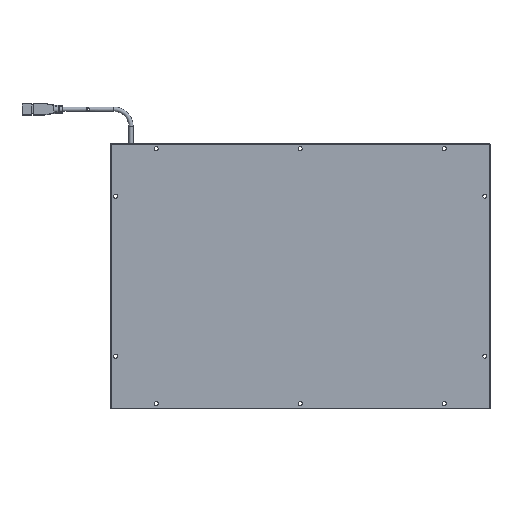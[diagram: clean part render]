
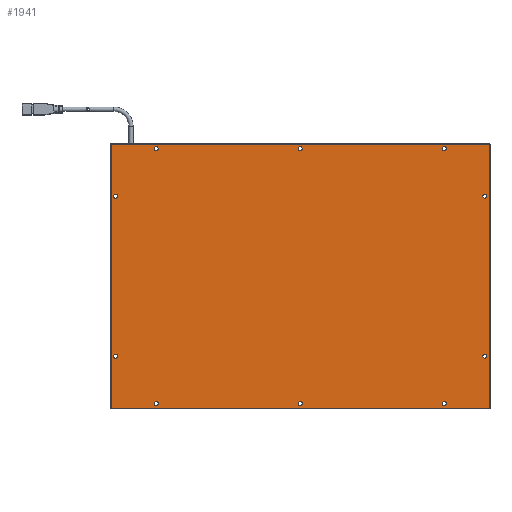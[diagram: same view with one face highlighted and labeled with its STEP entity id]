
A CAD part, front view. The second image highlights one B-rep face of the part: STEP entity #1941.
In plain terms, the highlighted planar face has unit normal (0, -1, 0).
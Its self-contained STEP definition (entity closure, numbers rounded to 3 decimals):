
#1=DIRECTION('',(0.,0.,-1.));
#2=VECTOR('',#1,231.);
#3=CARTESIAN_POINT('',(165.5,0.,115.5));
#4=LINE('',#3,#2);
#5=DIRECTION('',(-1.,0.,0.));
#6=VECTOR('',#5,331.);
#7=CARTESIAN_POINT('',(165.5,0.,-115.5));
#8=LINE('',#7,#6);
#9=DIRECTION('',(0.,0.,1.));
#10=VECTOR('',#9,231.);
#11=CARTESIAN_POINT('',(-165.5,0.,-115.5));
#12=LINE('',#11,#10);
#13=DIRECTION('',(1.,0.,0.));
#14=VECTOR('',#13,331.);
#15=CARTESIAN_POINT('',(-165.5,0.,115.5));
#16=LINE('',#15,#14);
#17=CARTESIAN_POINT('',(161.5,0.,-70.));
#18=DIRECTION('',(0.,-1.,0.));
#19=DIRECTION('',(-1.,0.,0.));
#20=AXIS2_PLACEMENT_3D('',#17,#18,#19);
#22=CARTESIAN_POINT('',(161.5,0.,-70.));
#23=DIRECTION('',(0.,-1.,0.));
#24=DIRECTION('',(1.,0.,0.));
#25=AXIS2_PLACEMENT_3D('',#22,#23,#24);
#27=CARTESIAN_POINT('',(161.5,0.,70.));
#28=DIRECTION('',(0.,-1.,0.));
#29=DIRECTION('',(-1.,0.,0.));
#30=AXIS2_PLACEMENT_3D('',#27,#28,#29);
#32=CARTESIAN_POINT('',(161.5,0.,70.));
#33=DIRECTION('',(0.,-1.,0.));
#34=DIRECTION('',(1.,0.,0.));
#35=AXIS2_PLACEMENT_3D('',#32,#33,#34);
#37=CARTESIAN_POINT('',(-161.5,0.,-70.));
#38=DIRECTION('',(0.,-1.,0.));
#39=DIRECTION('',(-1.,0.,0.));
#40=AXIS2_PLACEMENT_3D('',#37,#38,#39);
#42=CARTESIAN_POINT('',(-161.5,0.,-70.));
#43=DIRECTION('',(0.,-1.,0.));
#44=DIRECTION('',(1.,0.,0.));
#45=AXIS2_PLACEMENT_3D('',#42,#43,#44);
#47=CARTESIAN_POINT('',(-161.5,0.,70.));
#48=DIRECTION('',(0.,-1.,0.));
#49=DIRECTION('',(-1.,0.,0.));
#50=AXIS2_PLACEMENT_3D('',#47,#48,#49);
#52=CARTESIAN_POINT('',(-161.5,0.,70.));
#53=DIRECTION('',(0.,-1.,0.));
#54=DIRECTION('',(1.,0.,0.));
#55=AXIS2_PLACEMENT_3D('',#52,#53,#54);
#57=CARTESIAN_POINT('',(126.,0.,-111.5));
#58=DIRECTION('',(0.,-1.,0.));
#59=DIRECTION('',(-1.,0.,0.));
#60=AXIS2_PLACEMENT_3D('',#57,#58,#59);
#62=CARTESIAN_POINT('',(126.,0.,-111.5));
#63=DIRECTION('',(0.,-1.,0.));
#64=DIRECTION('',(1.,0.,0.));
#65=AXIS2_PLACEMENT_3D('',#62,#63,#64);
#67=CARTESIAN_POINT('',(0.,0.,-111.5));
#68=DIRECTION('',(0.,-1.,0.));
#69=DIRECTION('',(-1.,0.,0.));
#70=AXIS2_PLACEMENT_3D('',#67,#68,#69);
#72=CARTESIAN_POINT('',(0.,0.,-111.5));
#73=DIRECTION('',(0.,-1.,0.));
#74=DIRECTION('',(1.,0.,0.));
#75=AXIS2_PLACEMENT_3D('',#72,#73,#74);
#77=CARTESIAN_POINT('',(-126.,0.,-111.5));
#78=DIRECTION('',(0.,-1.,0.));
#79=DIRECTION('',(-1.,0.,0.));
#80=AXIS2_PLACEMENT_3D('',#77,#78,#79);
#82=CARTESIAN_POINT('',(-126.,0.,-111.5));
#83=DIRECTION('',(0.,-1.,0.));
#84=DIRECTION('',(1.,0.,0.));
#85=AXIS2_PLACEMENT_3D('',#82,#83,#84);
#87=CARTESIAN_POINT('',(126.,0.,111.5));
#88=DIRECTION('',(0.,-1.,0.));
#89=DIRECTION('',(1.,0.,0.));
#90=AXIS2_PLACEMENT_3D('',#87,#88,#89);
#92=CARTESIAN_POINT('',(126.,0.,111.5));
#93=DIRECTION('',(0.,-1.,0.));
#94=DIRECTION('',(-1.,0.,0.));
#95=AXIS2_PLACEMENT_3D('',#92,#93,#94);
#97=CARTESIAN_POINT('',(0.,0.,111.5));
#98=DIRECTION('',(0.,-1.,0.));
#99=DIRECTION('',(1.,0.,0.));
#100=AXIS2_PLACEMENT_3D('',#97,#98,#99);
#102=CARTESIAN_POINT('',(0.,0.,111.5));
#103=DIRECTION('',(0.,-1.,0.));
#104=DIRECTION('',(-1.,0.,0.));
#105=AXIS2_PLACEMENT_3D('',#102,#103,#104);
#107=CARTESIAN_POINT('',(-126.,0.,111.5));
#108=DIRECTION('',(0.,-1.,0.));
#109=DIRECTION('',(1.,0.,0.));
#110=AXIS2_PLACEMENT_3D('',#107,#108,#109);
#112=CARTESIAN_POINT('',(-126.,0.,111.5));
#113=DIRECTION('',(0.,-1.,0.));
#114=DIRECTION('',(-1.,0.,0.));
#115=AXIS2_PLACEMENT_3D('',#112,#113,#114);
#1446=CARTESIAN_POINT('',(165.5,0.,115.5));
#1447=CARTESIAN_POINT('',(165.5,0.,-115.5));
#1448=VERTEX_POINT('',#1446);
#1449=VERTEX_POINT('',#1447);
#1450=CARTESIAN_POINT('',(-165.5,0.,-115.5));
#1451=VERTEX_POINT('',#1450);
#1452=CARTESIAN_POINT('',(-165.5,0.,115.5));
#1453=VERTEX_POINT('',#1452);
#1454=CARTESIAN_POINT('',(159.75,0.,-70.));
#1455=CARTESIAN_POINT('',(163.25,0.,-70.));
#1456=VERTEX_POINT('',#1454);
#1457=VERTEX_POINT('',#1455);
#1458=CARTESIAN_POINT('',(159.75,0.,70.));
#1459=CARTESIAN_POINT('',(163.25,0.,70.));
#1460=VERTEX_POINT('',#1458);
#1461=VERTEX_POINT('',#1459);
#1462=CARTESIAN_POINT('',(-163.25,0.,-70.));
#1463=CARTESIAN_POINT('',(-159.75,0.,-70.));
#1464=VERTEX_POINT('',#1462);
#1465=VERTEX_POINT('',#1463);
#1466=CARTESIAN_POINT('',(-163.25,0.,70.));
#1467=CARTESIAN_POINT('',(-159.75,0.,70.));
#1468=VERTEX_POINT('',#1466);
#1469=VERTEX_POINT('',#1467);
#1470=CARTESIAN_POINT('',(124.25,0.,-111.5));
#1471=CARTESIAN_POINT('',(127.75,0.,-111.5));
#1472=VERTEX_POINT('',#1470);
#1473=VERTEX_POINT('',#1471);
#1474=CARTESIAN_POINT('',(-1.75,0.,-111.5));
#1475=CARTESIAN_POINT('',(1.75,0.,-111.5));
#1476=VERTEX_POINT('',#1474);
#1477=VERTEX_POINT('',#1475);
#1478=CARTESIAN_POINT('',(-127.75,0.,-111.5));
#1479=CARTESIAN_POINT('',(-124.25,0.,-111.5));
#1480=VERTEX_POINT('',#1478);
#1481=VERTEX_POINT('',#1479);
#1482=CARTESIAN_POINT('',(127.75,0.,111.5));
#1483=CARTESIAN_POINT('',(124.25,0.,111.5));
#1484=VERTEX_POINT('',#1482);
#1485=VERTEX_POINT('',#1483);
#1486=CARTESIAN_POINT('',(1.75,0.,111.5));
#1487=CARTESIAN_POINT('',(-1.75,0.,111.5));
#1488=VERTEX_POINT('',#1486);
#1489=VERTEX_POINT('',#1487);
#1490=CARTESIAN_POINT('',(-124.25,0.,111.5));
#1491=CARTESIAN_POINT('',(-127.75,0.,111.5));
#1492=VERTEX_POINT('',#1490);
#1493=VERTEX_POINT('',#1491);
#1866=CARTESIAN_POINT('',(0.,0.,0.));
#1867=DIRECTION('',(0.,1.,0.));
#1868=DIRECTION('',(1.,0.,0.));
#1869=AXIS2_PLACEMENT_3D('',#1866,#1867,#1868);
#1870=PLANE('',#1869);
#1872=ORIENTED_EDGE('',*,*,#1871,.T.);
#1874=ORIENTED_EDGE('',*,*,#1873,.T.);
#1876=ORIENTED_EDGE('',*,*,#1875,.T.);
#1878=ORIENTED_EDGE('',*,*,#1877,.T.);
#1879=EDGE_LOOP('',(#1872,#1874,#1876,#1878));
#1880=FACE_OUTER_BOUND('',#1879,.F.);
#1882=ORIENTED_EDGE('',*,*,#1881,.T.);
#1884=ORIENTED_EDGE('',*,*,#1883,.T.);
#1885=EDGE_LOOP('',(#1882,#1884));
#1886=FACE_BOUND('',#1885,.F.);
#1888=ORIENTED_EDGE('',*,*,#1887,.T.);
#1890=ORIENTED_EDGE('',*,*,#1889,.T.);
#1891=EDGE_LOOP('',(#1888,#1890));
#1892=FACE_BOUND('',#1891,.F.);
#1894=ORIENTED_EDGE('',*,*,#1893,.T.);
#1896=ORIENTED_EDGE('',*,*,#1895,.T.);
#1897=EDGE_LOOP('',(#1894,#1896));
#1898=FACE_BOUND('',#1897,.F.);
#1900=ORIENTED_EDGE('',*,*,#1899,.T.);
#1902=ORIENTED_EDGE('',*,*,#1901,.T.);
#1903=EDGE_LOOP('',(#1900,#1902));
#1904=FACE_BOUND('',#1903,.F.);
#1906=ORIENTED_EDGE('',*,*,#1905,.T.);
#1908=ORIENTED_EDGE('',*,*,#1907,.T.);
#1909=EDGE_LOOP('',(#1906,#1908));
#1910=FACE_BOUND('',#1909,.F.);
#1912=ORIENTED_EDGE('',*,*,#1911,.T.);
#1914=ORIENTED_EDGE('',*,*,#1913,.T.);
#1915=EDGE_LOOP('',(#1912,#1914));
#1916=FACE_BOUND('',#1915,.F.);
#1918=ORIENTED_EDGE('',*,*,#1917,.T.);
#1920=ORIENTED_EDGE('',*,*,#1919,.T.);
#1921=EDGE_LOOP('',(#1918,#1920));
#1922=FACE_BOUND('',#1921,.F.);
#1924=ORIENTED_EDGE('',*,*,#1923,.T.);
#1926=ORIENTED_EDGE('',*,*,#1925,.T.);
#1927=EDGE_LOOP('',(#1924,#1926));
#1928=FACE_BOUND('',#1927,.F.);
#1930=ORIENTED_EDGE('',*,*,#1929,.T.);
#1932=ORIENTED_EDGE('',*,*,#1931,.T.);
#1933=EDGE_LOOP('',(#1930,#1932));
#1934=FACE_BOUND('',#1933,.F.);
#1936=ORIENTED_EDGE('',*,*,#1935,.T.);
#1938=ORIENTED_EDGE('',*,*,#1937,.T.);
#1939=EDGE_LOOP('',(#1936,#1938));
#1940=FACE_BOUND('',#1939,.F.);
#21=CIRCLE('',#20,1.75);
#26=CIRCLE('',#25,1.75);
#31=CIRCLE('',#30,1.75);
#36=CIRCLE('',#35,1.75);
#41=CIRCLE('',#40,1.75);
#46=CIRCLE('',#45,1.75);
#51=CIRCLE('',#50,1.75);
#56=CIRCLE('',#55,1.75);
#61=CIRCLE('',#60,1.75);
#66=CIRCLE('',#65,1.75);
#71=CIRCLE('',#70,1.75);
#76=CIRCLE('',#75,1.75);
#81=CIRCLE('',#80,1.75);
#86=CIRCLE('',#85,1.75);
#91=CIRCLE('',#90,1.75);
#96=CIRCLE('',#95,1.75);
#101=CIRCLE('',#100,1.75);
#106=CIRCLE('',#105,1.75);
#111=CIRCLE('',#110,1.75);
#116=CIRCLE('',#115,1.75);
#1871=EDGE_CURVE('',#1448,#1449,#4,.T.);
#1873=EDGE_CURVE('',#1449,#1451,#8,.T.);
#1875=EDGE_CURVE('',#1451,#1453,#12,.T.);
#1877=EDGE_CURVE('',#1453,#1448,#16,.T.);
#1881=EDGE_CURVE('',#1456,#1457,#21,.T.);
#1883=EDGE_CURVE('',#1457,#1456,#26,.T.);
#1887=EDGE_CURVE('',#1460,#1461,#31,.T.);
#1889=EDGE_CURVE('',#1461,#1460,#36,.T.);
#1893=EDGE_CURVE('',#1464,#1465,#41,.T.);
#1895=EDGE_CURVE('',#1465,#1464,#46,.T.);
#1899=EDGE_CURVE('',#1468,#1469,#51,.T.);
#1901=EDGE_CURVE('',#1469,#1468,#56,.T.);
#1905=EDGE_CURVE('',#1472,#1473,#61,.T.);
#1907=EDGE_CURVE('',#1473,#1472,#66,.T.);
#1911=EDGE_CURVE('',#1476,#1477,#71,.T.);
#1913=EDGE_CURVE('',#1477,#1476,#76,.T.);
#1917=EDGE_CURVE('',#1480,#1481,#81,.T.);
#1919=EDGE_CURVE('',#1481,#1480,#86,.T.);
#1923=EDGE_CURVE('',#1484,#1485,#91,.T.);
#1925=EDGE_CURVE('',#1485,#1484,#96,.T.);
#1929=EDGE_CURVE('',#1488,#1489,#101,.T.);
#1931=EDGE_CURVE('',#1489,#1488,#106,.T.);
#1935=EDGE_CURVE('',#1492,#1493,#111,.T.);
#1937=EDGE_CURVE('',#1493,#1492,#116,.T.);
#1941=ADVANCED_FACE('',(#1880,#1886,#1892,#1898,#1904,#1910,#1916,#1922,#1928,
#1934,#1940),#1870,.F.);
